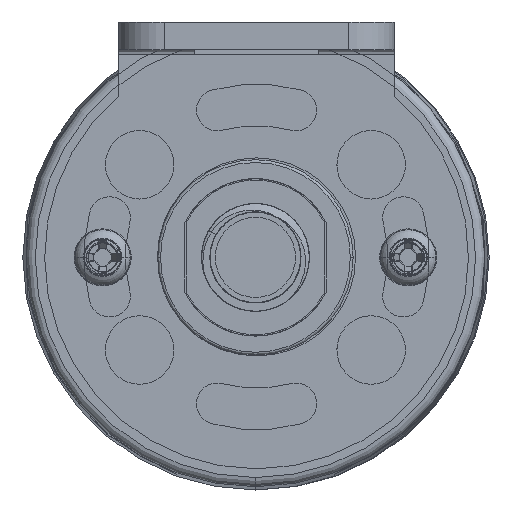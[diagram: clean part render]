
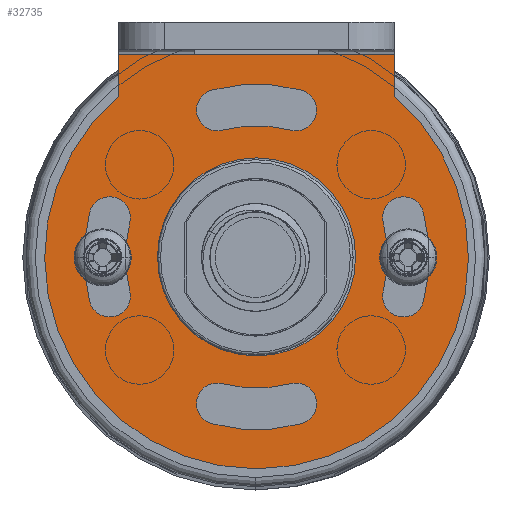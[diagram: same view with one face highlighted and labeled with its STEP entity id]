
A CAD part, front view. The second image highlights one B-rep face of the part: STEP entity #32735.
In plain terms, the highlighted planar face has unit normal (0, -1, 0).
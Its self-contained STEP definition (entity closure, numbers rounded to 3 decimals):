
#31935=CARTESIAN_POINT('',(0.,0.,0.));
#31936=DIRECTION('',(0.,-1.,0.));
#31937=DIRECTION('',(1.,0.,0.));
#31938=AXIS2_PLACEMENT_3D('',#31935,#31936,#31937);
#31940=CARTESIAN_POINT('',(0.,0.,0.));
#31941=DIRECTION('',(0.,-1.,0.));
#31942=DIRECTION('',(-1.,0.,0.));
#31943=AXIS2_PLACEMENT_3D('',#31940,#31941,#31942);
#31945=CARTESIAN_POINT('',(0.,0.,0.));
#31946=DIRECTION('',(0.,1.,0.));
#31947=DIRECTION('',(0.259,0.,-0.966));
#31948=AXIS2_PLACEMENT_3D('',#31945,#31946,#31947);
#31950=CARTESIAN_POINT('',(-4.271,0.,-15.938));
#31951=DIRECTION('',(0.,-1.,0.));
#31952=DIRECTION('',(0.259,0.,0.966));
#31953=AXIS2_PLACEMENT_3D('',#31950,#31951,#31952);
#31955=CARTESIAN_POINT('',(0.,0.,0.));
#31956=DIRECTION('',(0.,-1.,0.));
#31957=DIRECTION('',(-0.259,0.,-0.966));
#31958=AXIS2_PLACEMENT_3D('',#31955,#31956,#31957);
#31960=CARTESIAN_POINT('',(4.271,0.,-15.938));
#31961=DIRECTION('',(0.,-1.,0.));
#31962=DIRECTION('',(0.259,0.,-0.966));
#31963=AXIS2_PLACEMENT_3D('',#31960,#31961,#31962);
#31965=CARTESIAN_POINT('',(-15.938,0.,-4.271));
#31966=DIRECTION('',(0.,-1.,0.));
#31967=DIRECTION('',(-0.966,0.,-0.259));
#31968=AXIS2_PLACEMENT_3D('',#31965,#31966,#31967);
#31970=CARTESIAN_POINT('',(0.,0.,0.));
#31971=DIRECTION('',(0.,1.,0.));
#31972=DIRECTION('',(-0.966,0.,-0.259));
#31973=AXIS2_PLACEMENT_3D('',#31970,#31971,#31972);
#31975=CARTESIAN_POINT('',(-15.938,0.,4.271));
#31976=DIRECTION('',(0.,-1.,0.));
#31977=DIRECTION('',(0.966,0.,-0.259));
#31978=AXIS2_PLACEMENT_3D('',#31975,#31976,#31977);
#31980=CARTESIAN_POINT('',(0.,0.,0.));
#31981=DIRECTION('',(0.,-1.,0.));
#31982=DIRECTION('',(-0.966,0.,0.259));
#31983=AXIS2_PLACEMENT_3D('',#31980,#31981,#31982);
#31985=CARTESIAN_POINT('',(-4.271,0.,15.938));
#31986=DIRECTION('',(0.,-1.,0.));
#31987=DIRECTION('',(-0.259,0.,0.966));
#31988=AXIS2_PLACEMENT_3D('',#31985,#31986,#31987);
#31990=CARTESIAN_POINT('',(0.,0.,0.));
#31991=DIRECTION('',(0.,1.,0.));
#31992=DIRECTION('',(-0.259,0.,0.966));
#31993=AXIS2_PLACEMENT_3D('',#31990,#31991,#31992);
#31995=CARTESIAN_POINT('',(4.271,0.,15.938));
#31996=DIRECTION('',(0.,-1.,0.));
#31997=DIRECTION('',(-0.259,0.,-0.966));
#31998=AXIS2_PLACEMENT_3D('',#31995,#31996,#31997);
#32000=CARTESIAN_POINT('',(0.,0.,0.));
#32001=DIRECTION('',(0.,-1.,0.));
#32002=DIRECTION('',(0.259,0.,0.966));
#32003=AXIS2_PLACEMENT_3D('',#32000,#32001,#32002);
#32005=CARTESIAN_POINT('',(15.938,0.,4.271));
#32006=DIRECTION('',(0.,-1.,0.));
#32007=DIRECTION('',(0.966,0.,0.259));
#32008=AXIS2_PLACEMENT_3D('',#32005,#32006,#32007);
#32010=CARTESIAN_POINT('',(0.,0.,0.));
#32011=DIRECTION('',(0.,1.,0.));
#32012=DIRECTION('',(0.966,0.,0.259));
#32013=AXIS2_PLACEMENT_3D('',#32010,#32011,#32012);
#32015=CARTESIAN_POINT('',(15.938,0.,-4.271));
#32016=DIRECTION('',(0.,-1.,0.));
#32017=DIRECTION('',(-0.966,0.,0.259));
#32018=AXIS2_PLACEMENT_3D('',#32015,#32016,#32017);
#32020=CARTESIAN_POINT('',(0.,0.,0.));
#32021=DIRECTION('',(0.,-1.,0.));
#32022=DIRECTION('',(0.966,0.,-0.259));
#32023=AXIS2_PLACEMENT_3D('',#32020,#32021,#32022);
#32025=DIRECTION('',(-1.,0.,0.));
#32026=VECTOR('',#32025,13.5);
#32027=CARTESIAN_POINT('',(6.75,0.,-22.));
#32028=LINE('',#32027,#32026);
#32029=DIRECTION('',(0.,0.,1.));
#32030=VECTOR('',#32029,4.564);
#32031=CARTESIAN_POINT('',(-15.,0.,-22.));
#32032=LINE('',#32031,#32030);
#32033=CARTESIAN_POINT('',(0.,0.,0.));
#32034=DIRECTION('',(0.,1.,0.));
#32035=DIRECTION('',(-0.652,0.,-0.758));
#32036=AXIS2_PLACEMENT_3D('',#32033,#32034,#32035);
#32038=DIRECTION('',(0.,0.,-1.));
#32039=VECTOR('',#32038,4.564);
#32040=CARTESIAN_POINT('',(15.,0.,-17.436));
#32041=LINE('',#32040,#32039);
#32115=DIRECTION('',(1.,0.,0.));
#32116=VECTOR('',#32115,8.25);
#32117=CARTESIAN_POINT('',(6.75,0.,-22.));
#32118=LINE('',#32117,#32116);
#32133=DIRECTION('',(1.,0.,0.));
#32134=VECTOR('',#32133,8.25);
#32135=CARTESIAN_POINT('',(-15.,0.,-22.));
#32136=LINE('',#32135,#32134);
#32450=CARTESIAN_POINT('',(10.75,0.,0.));
#32451=CARTESIAN_POINT('',(-10.75,0.,0.));
#32452=VERTEX_POINT('',#32450);
#32453=VERTEX_POINT('',#32451);
#32454=CARTESIAN_POINT('',(3.688,0.,-13.764));
#32455=CARTESIAN_POINT('',(-3.688,0.,-13.764));
#32456=VERTEX_POINT('',#32454);
#32457=VERTEX_POINT('',#32455);
#32458=CARTESIAN_POINT('',(-4.853,0.,-18.111));
#32459=VERTEX_POINT('',#32458);
#32460=CARTESIAN_POINT('',(4.853,0.,-18.111));
#32461=VERTEX_POINT('',#32460);
#32462=CARTESIAN_POINT('',(-18.111,0.,-4.853));
#32463=CARTESIAN_POINT('',(-13.764,0.,-3.688));
#32464=VERTEX_POINT('',#32462);
#32465=VERTEX_POINT('',#32463);
#32466=CARTESIAN_POINT('',(-13.764,0.,3.688));
#32467=VERTEX_POINT('',#32466);
#32468=CARTESIAN_POINT('',(-18.111,0.,4.853));
#32469=VERTEX_POINT('',#32468);
#32470=CARTESIAN_POINT('',(-4.853,0.,18.111));
#32471=CARTESIAN_POINT('',(-3.688,0.,13.764));
#32472=VERTEX_POINT('',#32470);
#32473=VERTEX_POINT('',#32471);
#32474=CARTESIAN_POINT('',(3.688,0.,13.764));
#32475=VERTEX_POINT('',#32474);
#32476=CARTESIAN_POINT('',(4.853,0.,18.111));
#32477=VERTEX_POINT('',#32476);
#32478=CARTESIAN_POINT('',(18.111,0.,4.853));
#32479=CARTESIAN_POINT('',(13.764,0.,3.688));
#32480=VERTEX_POINT('',#32478);
#32481=VERTEX_POINT('',#32479);
#32482=CARTESIAN_POINT('',(13.764,0.,-3.688));
#32483=VERTEX_POINT('',#32482);
#32484=CARTESIAN_POINT('',(18.111,0.,-4.853));
#32485=VERTEX_POINT('',#32484);
#32486=CARTESIAN_POINT('',(-15.,0.,-17.436));
#32487=CARTESIAN_POINT('',(15.,0.,-17.436));
#32488=VERTEX_POINT('',#32486);
#32489=VERTEX_POINT('',#32487);
#32494=CARTESIAN_POINT('',(15.,0.,-22.));
#32495=VERTEX_POINT('',#32494);
#32496=CARTESIAN_POINT('',(-15.,0.,-22.));
#32497=VERTEX_POINT('',#32496);
#32514=CARTESIAN_POINT('',(6.75,0.,-22.));
#32515=CARTESIAN_POINT('',(-6.75,0.,-22.));
#32516=VERTEX_POINT('',#32514);
#32517=VERTEX_POINT('',#32515);
#32672=CARTESIAN_POINT('',(0.,0.,0.));
#32673=DIRECTION('',(0.,1.,0.));
#32674=DIRECTION('',(1.,0.,0.));
#32675=AXIS2_PLACEMENT_3D('',#32672,#32673,#32674);
#32676=PLANE('',#32675);
#32678=ORIENTED_EDGE('',*,*,#32677,.F.);
#32680=ORIENTED_EDGE('',*,*,#32679,.T.);
#32682=ORIENTED_EDGE('',*,*,#32681,.F.);
#32684=ORIENTED_EDGE('',*,*,#32683,.T.);
#32686=ORIENTED_EDGE('',*,*,#32685,.T.);
#32688=ORIENTED_EDGE('',*,*,#32687,.T.);
#32689=EDGE_LOOP('',(#32678,#32680,#32682,#32684,#32686,#32688));
#32690=FACE_OUTER_BOUND('',#32689,.F.);
#32692=ORIENTED_EDGE('',*,*,#32691,.T.);
#32694=ORIENTED_EDGE('',*,*,#32693,.T.);
#32696=ORIENTED_EDGE('',*,*,#32695,.T.);
#32698=ORIENTED_EDGE('',*,*,#32697,.T.);
#32699=EDGE_LOOP('',(#32692,#32694,#32696,#32698));
#32700=FACE_BOUND('',#32699,.F.);
#32702=ORIENTED_EDGE('',*,*,#32701,.T.);
#32704=ORIENTED_EDGE('',*,*,#32703,.T.);
#32706=ORIENTED_EDGE('',*,*,#32705,.T.);
#32708=ORIENTED_EDGE('',*,*,#32707,.T.);
#32709=EDGE_LOOP('',(#32702,#32704,#32706,#32708));
#32710=FACE_BOUND('',#32709,.F.);
#32712=ORIENTED_EDGE('',*,*,#32711,.T.);
#32714=ORIENTED_EDGE('',*,*,#32713,.T.);
#32716=ORIENTED_EDGE('',*,*,#32715,.T.);
#32718=ORIENTED_EDGE('',*,*,#32717,.T.);
#32719=EDGE_LOOP('',(#32712,#32714,#32716,#32718));
#32720=FACE_BOUND('',#32719,.F.);
#32722=ORIENTED_EDGE('',*,*,#32721,.T.);
#32724=ORIENTED_EDGE('',*,*,#32723,.T.);
#32726=ORIENTED_EDGE('',*,*,#32725,.T.);
#32728=ORIENTED_EDGE('',*,*,#32727,.T.);
#32729=EDGE_LOOP('',(#32722,#32724,#32726,#32728));
#32730=FACE_BOUND('',#32729,.F.);
#32731=ORIENTED_EDGE('',*,*,#32652,.T.);
#32732=ORIENTED_EDGE('',*,*,#32666,.T.);
#32733=EDGE_LOOP('',(#32731,#32732));
#32734=FACE_BOUND('',#32733,.F.);
#32735=ADVANCED_FACE('',(#32690,#32700,#32710,#32720,#32730,#32734),#32676,.F.);
#31939=CIRCLE('',#31938,10.75);
#31944=CIRCLE('',#31943,10.75);
#31949=CIRCLE('',#31948,14.25);
#31954=CIRCLE('',#31953,2.25);
#31959=CIRCLE('',#31958,18.75);
#31964=CIRCLE('',#31963,2.25);
#31969=CIRCLE('',#31968,2.25);
#31974=CIRCLE('',#31973,14.25);
#31979=CIRCLE('',#31978,2.25);
#31984=CIRCLE('',#31983,18.75);
#31989=CIRCLE('',#31988,2.25);
#31994=CIRCLE('',#31993,14.25);
#31999=CIRCLE('',#31998,2.25);
#32004=CIRCLE('',#32003,18.75);
#32009=CIRCLE('',#32008,2.25);
#32014=CIRCLE('',#32013,14.25);
#32019=CIRCLE('',#32018,2.25);
#32024=CIRCLE('',#32023,18.75);
#32037=CIRCLE('',#32036,23.);
#32652=EDGE_CURVE('',#32452,#32453,#31939,.T.);
#32666=EDGE_CURVE('',#32453,#32452,#31944,.T.);
#32677=EDGE_CURVE('',#32516,#32495,#32118,.T.);
#32679=EDGE_CURVE('',#32516,#32517,#32028,.T.);
#32681=EDGE_CURVE('',#32497,#32517,#32136,.T.);
#32683=EDGE_CURVE('',#32497,#32488,#32032,.T.);
#32685=EDGE_CURVE('',#32488,#32489,#32037,.T.);
#32687=EDGE_CURVE('',#32489,#32495,#32041,.T.);
#32691=EDGE_CURVE('',#32456,#32457,#31949,.T.);
#32693=EDGE_CURVE('',#32457,#32459,#31954,.T.);
#32695=EDGE_CURVE('',#32459,#32461,#31959,.T.);
#32697=EDGE_CURVE('',#32461,#32456,#31964,.T.);
#32701=EDGE_CURVE('',#32464,#32465,#31969,.T.);
#32703=EDGE_CURVE('',#32465,#32467,#31974,.T.);
#32705=EDGE_CURVE('',#32467,#32469,#31979,.T.);
#32707=EDGE_CURVE('',#32469,#32464,#31984,.T.);
#32711=EDGE_CURVE('',#32472,#32473,#31989,.T.);
#32713=EDGE_CURVE('',#32473,#32475,#31994,.T.);
#32715=EDGE_CURVE('',#32475,#32477,#31999,.T.);
#32717=EDGE_CURVE('',#32477,#32472,#32004,.T.);
#32721=EDGE_CURVE('',#32480,#32481,#32009,.T.);
#32723=EDGE_CURVE('',#32481,#32483,#32014,.T.);
#32725=EDGE_CURVE('',#32483,#32485,#32019,.T.);
#32727=EDGE_CURVE('',#32485,#32480,#32024,.T.);
